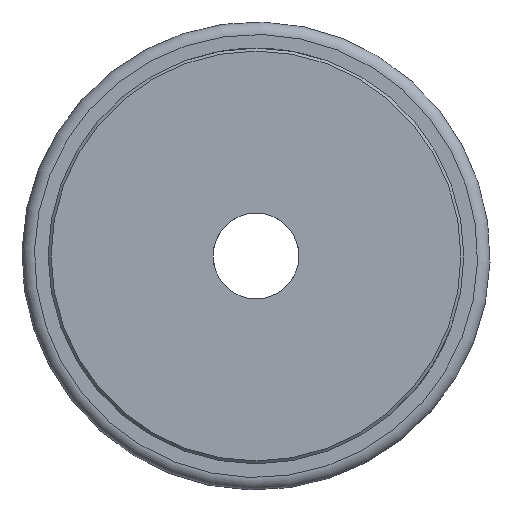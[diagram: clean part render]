
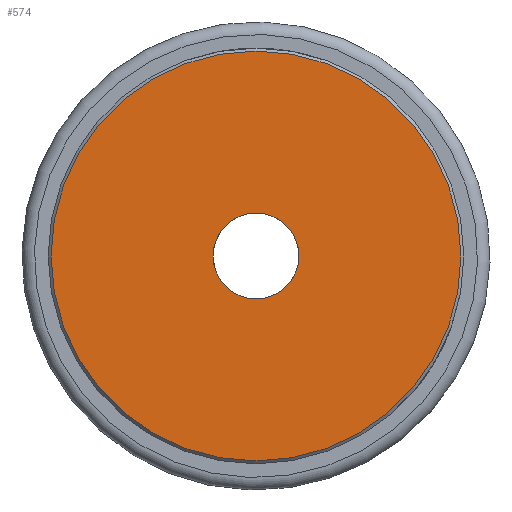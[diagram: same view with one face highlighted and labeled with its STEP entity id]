
A CAD part, left-side view. The second image highlights one B-rep face of the part: STEP entity #574.
In plain terms, the highlighted planar face has unit normal (-1, 0, 0).
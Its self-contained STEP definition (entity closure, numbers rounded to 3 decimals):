
#574 = ADVANCED_FACE( 'NONE', ( #1190, #1191 ), #1192, .F. );
#1190 = FACE_OUTER_BOUND( '', #1818, .T. );
#1191 = FACE_BOUND( '', #1819, .T. );
#1192 = PLANE( '', #1820 );
#1818 = EDGE_LOOP( '', ( #2920 ) );
#1819 = EDGE_LOOP( '', ( #2921 ) );
#1820 = AXIS2_PLACEMENT_3D( '', #2922, #2923, #2924 );
#2920 = ORIENTED_EDGE( '', *, *, #3405, .T. );
#2921 = ORIENTED_EDGE( '', *, *, #3339, .F. );
#2922 = CARTESIAN_POINT( '', ( 0., 3., 0. ) );
#2923 = DIRECTION( '', ( 1., 0., 0. ) );
#2924 = DIRECTION( '', ( 0., 1., 0. ) );
#3339 = EDGE_CURVE( 'NONE', #3908, #3908, #3909, .T. );
#3405 = EDGE_CURVE( 'NONE', #4009, #4009, #4010, .T. );
#3908 = VERTEX_POINT( '', #5054 );
#3909 = CIRCLE( '', #5055, 3. );
#4009 = VERTEX_POINT( '', #5158 );
#4010 = CIRCLE( '', #5159, 14.3 );
#5054 = CARTESIAN_POINT( '', ( 0., 0., 3. ) );
#5055 = AXIS2_PLACEMENT_3D( '', #5740, #5741, #5742 );
#5158 = CARTESIAN_POINT( '', ( 0., 0., -14.3 ) );
#5159 = AXIS2_PLACEMENT_3D( '', #5866, #5867, #5868 );
#5740 = CARTESIAN_POINT( '', ( 0., 0., 0. ) );
#5741 = DIRECTION( '', ( -1., 0., 0. ) );
#5742 = DIRECTION( '', ( 0., 0., 1. ) );
#5866 = CARTESIAN_POINT( '', ( 0., 0., 0. ) );
#5867 = DIRECTION( '', ( -1., 0., 0. ) );
#5868 = DIRECTION( '', ( 0., 0., -1. ) );
